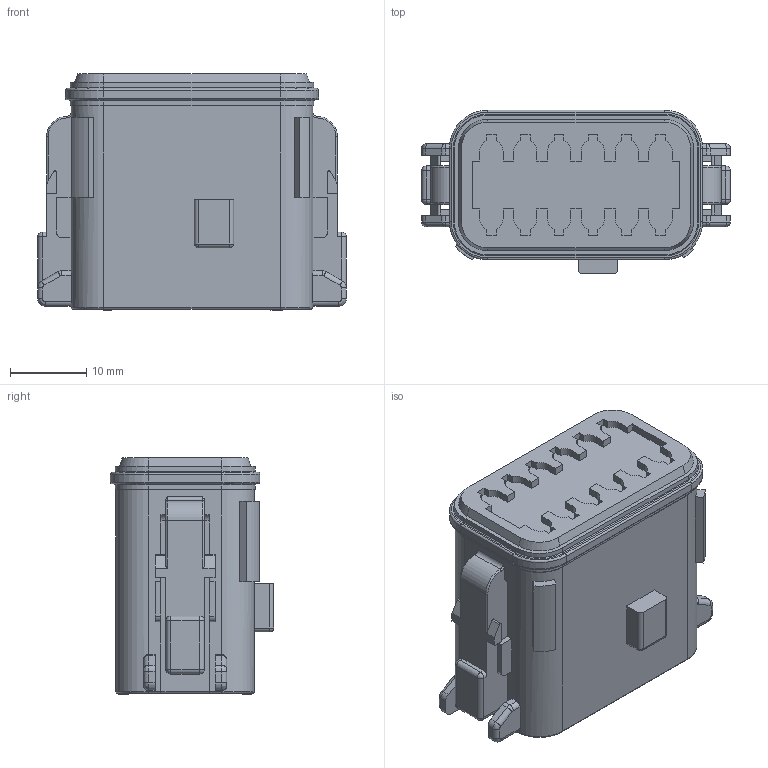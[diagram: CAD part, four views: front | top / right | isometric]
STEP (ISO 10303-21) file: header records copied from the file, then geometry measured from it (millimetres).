
FILE_DESCRIPTION((''),'2;1');
FILE_NAME('C-DT06-12SA-P012','2013-06-26T',('workeradm'),('Tyco Electronics Ltd.'),'PRO/ENGINEER BY PARAMETRIC TECHNOLOGY CORPORATION, 2011490','PRO/ENGINEER BY PARAMETRIC TECHNOLOGY CORPORATION, 2011490','');
FILE_SCHEMA(('AUTOMOTIVE_DESIGN { 1 0 10303 214 1 1 1 1 }'));
Length unit declared in the file: millimetre
Products named in the file (1): C-DT06-12SA-P012
Bounding box: 40.56 x 21.46 x 31.04 mm (x, y, z)
Volume: 17781.3 mm3; surface area: 5321 mm2
Topology: 1 solids, 1 shells, 623 faces, 1588 edges, 1006 vertices
Faces by surface type: plane 334, cylinder 187, torus 76, bspline 12, sphere 10, cone 4
Entity records: 19368 total; most frequent: CARTESIAN_POINT 3623, DIRECTION 3308, ORIENTED_EDGE 3176, EDGE_CURVE 1588, AXIS2_PLACEMENT_3D 1125, VECTOR 1058, LINE 1058, VERTEX_POINT 1006
